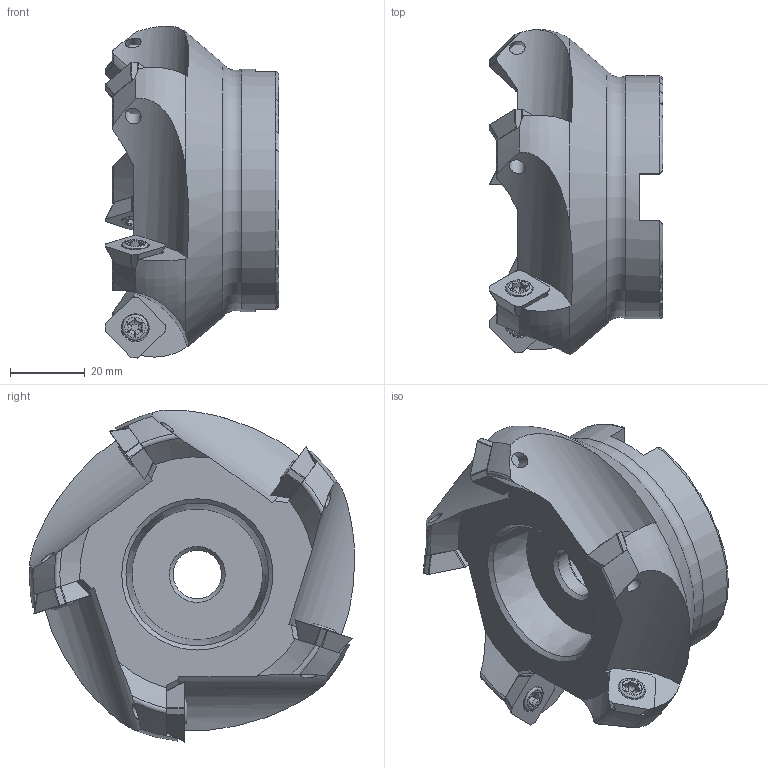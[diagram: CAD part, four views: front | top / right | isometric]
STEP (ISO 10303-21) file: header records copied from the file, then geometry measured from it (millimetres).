
FILE_DESCRIPTION(/* description */ (''),/* implementation_level */ '2;1');
FILE_NAME(/* name */ 'Z:\Проектный отдел\Арина\Режущие инструменты\Торцевые\КМ12-80-27-5Т\КМ12-80-27-5Т.stp',/* time_stamp */ '2023-10-18T09:26:02+03:00',/* author */ ('Рекина Арина'),/* organization */ (''),/* preprocessor_version */ 'ST-DEVELOPER v18',/* originating_system */ 'Autodesk Inventor 2020',/* authorisation */ '');
FILE_SCHEMA (('AUTOMOTIVE_DESIGN { 1 0 10303 214 3 1 1 }'));
Length unit declared in the file: millimetre
Products named in the file (4): КМ12-80-27-5Т; Деталь1; SC; болт
Assembly tree (11 placements, depth 2):
  КМ12-80-27-5Т
    Деталь1
    SC  x5
    болт  x5
Bounding box: 46.58 x 87.07 x 88.89 mm (x, y, z)
Volume: 131464.7 mm3; surface area: 26378.5 mm2
Topology: 11 solids, 11 shells, 362 faces, 957 edges, 593 vertices
Faces by surface type: cylinder 135, plane 117, torus 50, cone 30, bspline 30
Full cylindrical faces by diameter (mm): 4.2 x5, 5 x5, 5.5 x10, 13 x1, 27 x1, 65 x1
Entity records: 6212 total; most frequent: CARTESIAN_POINT 2016, ORIENTED_EDGE 862, DIRECTION 857, EDGE_CURVE 431, AXIS2_PLACEMENT_3D 353, VERTEX_POINT 281, EDGE_LOOP 174, FACE_OUTER_BOUND 158
